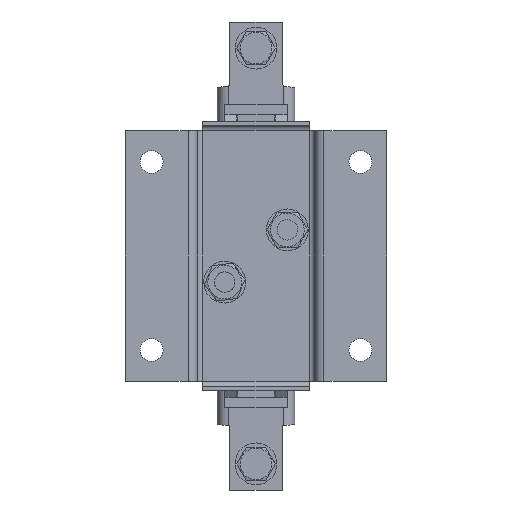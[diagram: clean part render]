
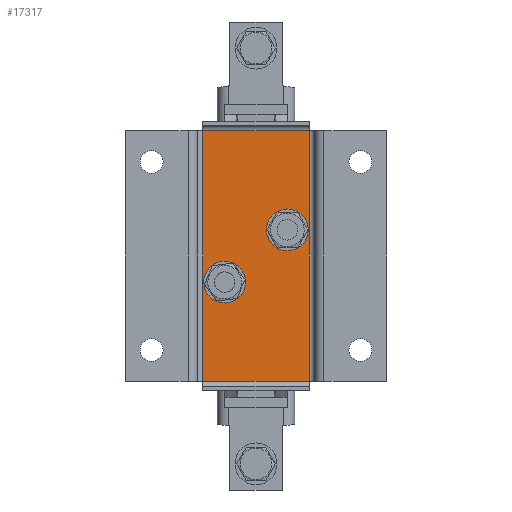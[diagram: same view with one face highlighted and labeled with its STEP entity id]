
A CAD part, front view. The second image highlights one B-rep face of the part: STEP entity #17317.
In plain terms, the highlighted planar face has unit normal (0, -1, 0).
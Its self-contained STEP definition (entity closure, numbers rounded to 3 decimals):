
#2769 = EDGE_CURVE ( 'NONE', #16010, #6991, #6801, .T. ) ;
#3054 = CARTESIAN_POINT ( 'NONE',  ( -30., -2., -60. ) ) ;
#3984 = ORIENTED_EDGE ( 'NONE', *, *, #21850, .F. ) ;
#5967 = PLANE ( 'NONE',  #7767 ) ;
#6558 = CARTESIAN_POINT ( 'NONE',  ( 25.5, -2., 60. ) ) ;
#6801 = LINE ( 'NONE', #3054, #18153 ) ;
#6860 = CARTESIAN_POINT ( 'NONE',  ( -25.5, -2., -60. ) ) ;
#6991 = VERTEX_POINT ( 'NONE', #18742 ) ;
#7767 = AXIS2_PLACEMENT_3D ( 'NONE', #8336, #26211, #22127 ) ;
#8336 = CARTESIAN_POINT ( 'NONE',  ( -30., -2., 60. ) ) ;
#8469 = VECTOR ( 'NONE', #8742, 1000. ) ;
#8742 = DIRECTION ( 'NONE',  ( 0., 0., -1. ) ) ;
#9286 = FACE_OUTER_BOUND ( 'NONE', #23064, .T. ) ;
#9872 = CARTESIAN_POINT ( 'NONE',  ( -30., -2., 60. ) ) ;
#10132 = VERTEX_POINT ( 'NONE', #13455 ) ;
#13455 = CARTESIAN_POINT ( 'NONE',  ( 25.5, -2., 60. ) ) ;
#16010 = VERTEX_POINT ( 'NONE', #6860 ) ;
#16742 = DIRECTION ( 'NONE',  ( 1., 0., 0. ) ) ;
#17317 = ADVANCED_FACE ( 'NONE', ( #9286 ), #5967, .F. ) ;
#18153 = VECTOR ( 'NONE', #16742, 1000. ) ;
#18742 = CARTESIAN_POINT ( 'NONE',  ( 25.5, -2., -60. ) ) ;
#19386 = ORIENTED_EDGE ( 'NONE', *, *, #2769, .T. ) ;
#20212 = VECTOR ( 'NONE', #21265, 1000. ) ;
#20383 = CARTESIAN_POINT ( 'NONE',  ( -25.5, -2., 60. ) ) ;
#20496 = EDGE_CURVE ( 'NONE', #28077, #16010, #28974, .T. ) ;
#21265 = DIRECTION ( 'NONE',  ( 1., 0., 0. ) ) ;
#21850 = EDGE_CURVE ( 'NONE', #28077, #10132, #23065, .T. ) ;
#22127 = DIRECTION ( 'NONE',  ( -1., 0., 0. ) ) ;
#22629 = ORIENTED_EDGE ( 'NONE', *, *, #20496, .T. ) ;
#23064 = EDGE_LOOP ( 'NONE', ( #19386, #26354, #3984, #22629 ) ) ;
#23065 = LINE ( 'NONE', #9872, #20212 ) ;
#23781 = EDGE_CURVE ( 'NONE', #10132, #6991, #24450, .T. ) ;
#24450 = LINE ( 'NONE', #6558, #8469 ) ;
#26211 = DIRECTION ( 'NONE',  ( 0., 1., 0. ) ) ;
#26354 = ORIENTED_EDGE ( 'NONE', *, *, #23781, .F. ) ;
#27362 = DIRECTION ( 'NONE',  ( 0., 0., -1. ) ) ;
#28077 = VERTEX_POINT ( 'NONE', #28396 ) ;
#28396 = CARTESIAN_POINT ( 'NONE',  ( -25.5, -2., 60. ) ) ;
#28974 = LINE ( 'NONE', #20383, #29320 ) ;
#29320 = VECTOR ( 'NONE', #27362, 1000. ) ;
